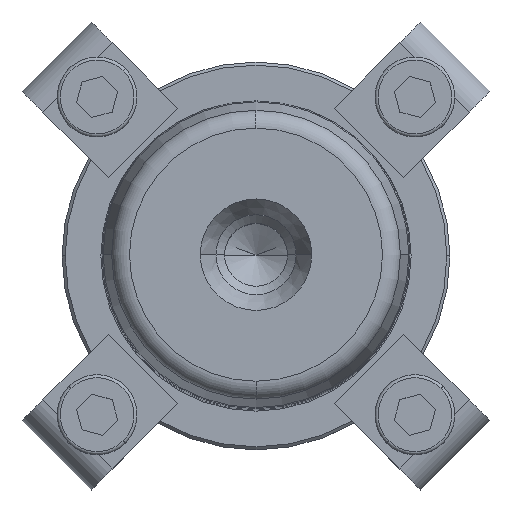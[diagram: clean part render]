
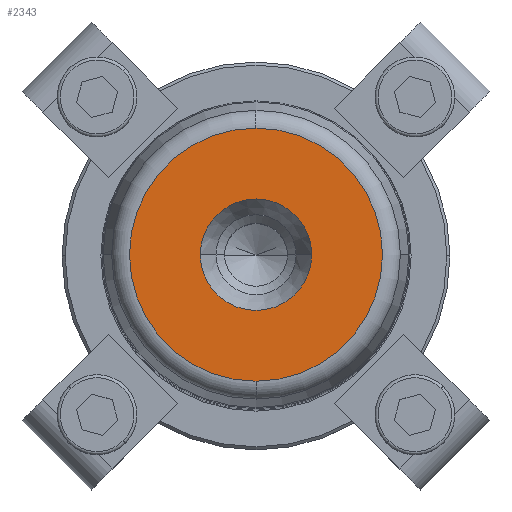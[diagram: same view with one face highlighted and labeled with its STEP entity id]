
A CAD part, top view. The second image highlights one B-rep face of the part: STEP entity #2343.
In plain terms, the highlighted planar face has unit normal (0, 0, 1).
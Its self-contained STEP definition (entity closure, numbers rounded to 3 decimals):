
#431=CARTESIAN_POINT('',(9.05,0.,125.0));
#432=VERTEX_POINT('',#431);
#439=CARTESIAN_POINT('',(-9.05,0.,125.0));
#440=VERTEX_POINT('',#439);
#441=CARTESIAN_POINT('',(0.0,0.,125.0));
#442=DIRECTION('',(0.0,0.0,1.0));
#443=DIRECTION('',(1.0,0.0,0.0));
#444=AXIS2_PLACEMENT_3D('',#441,#442,#443);
#445=CIRCLE('',#444,9.05);
#446=EDGE_CURVE('',#432,#440,#445,.T.);
#463=CARTESIAN_POINT('',(0.0,-20.554,125.0));
#464=VERTEX_POINT('',#463);
#474=CARTESIAN_POINT('',(0.,20.554,125.0));
#475=VERTEX_POINT('',#474);
#476=CARTESIAN_POINT('',(0.0,0.,125.0));
#477=DIRECTION('',(0.0,0.0,1.0));
#478=DIRECTION('',(1.0,0.0,0.0));
#479=AXIS2_PLACEMENT_3D('',#476,#477,#478);
#480=CIRCLE('',#479,20.554);
#481=EDGE_CURVE('',#475,#464,#480,.T.);
#2304=CARTESIAN_POINT('',(20.554,0.,125.0));
#2305=VERTEX_POINT('',#2304);
#2306=CARTESIAN_POINT('',(0.0,0.,125.0));
#2307=DIRECTION('',(0.0,0.0,1.0));
#2308=DIRECTION('',(1.0,0.0,0.0));
#2309=AXIS2_PLACEMENT_3D('',#2306,#2307,#2308);
#2310=CIRCLE('',#2309,20.554);
#2311=EDGE_CURVE('',#2305,#475,#2310,.T.);
#2313=CARTESIAN_POINT('',(0.0,0.,125.0));
#2314=DIRECTION('',(0.0,0.0,1.0));
#2315=DIRECTION('',(1.0,0.0,0.0));
#2316=AXIS2_PLACEMENT_3D('',#2313,#2314,#2315);
#2317=CIRCLE('',#2316,20.554);
#2318=EDGE_CURVE('',#464,#2305,#2317,.T.);
#2323=CARTESIAN_POINT('',(14.802,0.,125.0));
#2324=DIRECTION('',(0.0,0.0,1.0));
#2325=DIRECTION('',(0.0,-1.0,0.0));
#2326=AXIS2_PLACEMENT_3D('',#2323,#2324,#2325);
#2327=PLANE('',#2326);
#2328=ORIENTED_EDGE('',*,*,#2311,.T.);
#2329=ORIENTED_EDGE('',*,*,#481,.T.);
#2330=ORIENTED_EDGE('',*,*,#2318,.T.);
#2331=EDGE_LOOP('',(#2328,#2329,#2330));
#2332=FACE_OUTER_BOUND('',#2331,.T.);
#2333=ORIENTED_EDGE('',*,*,#446,.F.);
#2334=CARTESIAN_POINT('',(0.0,0.,125.0));
#2335=DIRECTION('',(0.0,0.0,1.0));
#2336=DIRECTION('',(1.0,0.0,0.0));
#2337=AXIS2_PLACEMENT_3D('',#2334,#2335,#2336);
#2338=CIRCLE('',#2337,9.05);
#2339=EDGE_CURVE('',#440,#432,#2338,.T.);
#2340=ORIENTED_EDGE('',*,*,#2339,.F.);
#2341=EDGE_LOOP('',(#2333,#2340));
#2342=FACE_BOUND('',#2341,.T.);
#2343=ADVANCED_FACE('',(#2332,#2342),#2327,.T.);
